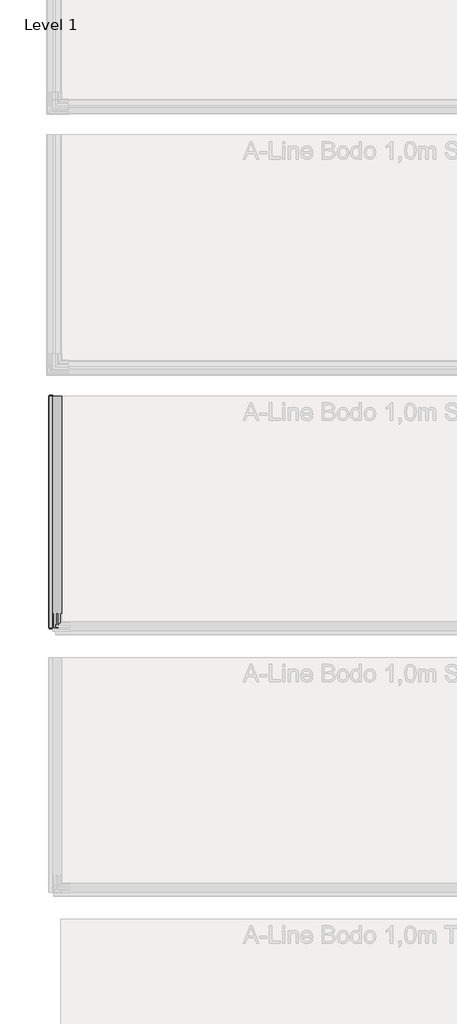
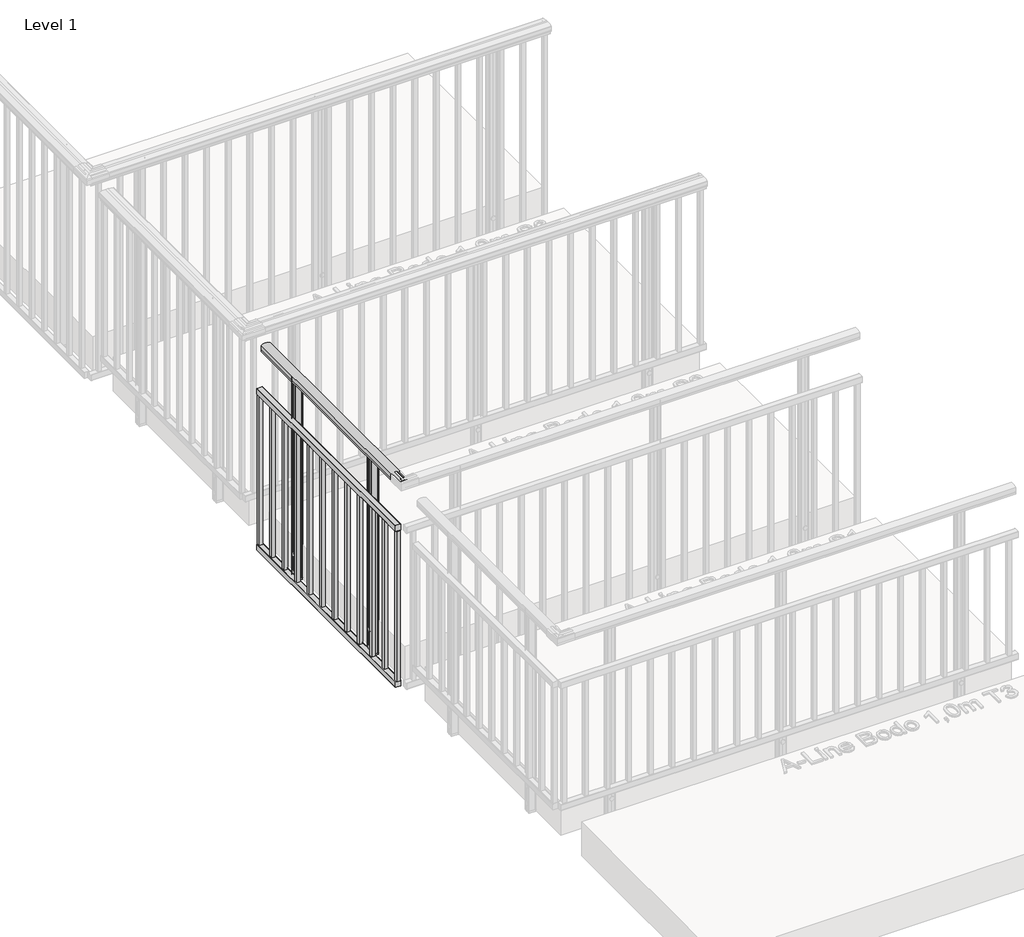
# One storey, part 8 of 66: 1 railing.
"""IFC4 building model written with IfcOpenShell, lengths in millimetres."""

from ifc_helpers import new_model, si_unit, point, frame, frame_2d, origin, place, context, project, spatial, polyline, circle_curve, trimmed, segment, composite_curve, outline, extrude, element, save

model = new_model("IFC4")

# Units and contexts
model_context = context("Model", 3, world=origin())
ifc_project = project(units=[si_unit("LENGTHUNIT", "METRE", prefix="MILLI")], contexts=[model_context])

# Site, building, storey
site = spatial("IfcSite", under=ifc_project)
building = spatial("IfcBuilding", under=site)
storey = spatial("IfcBuildingStorey", under=building, Name="Level 1", Elevation=0.0)

# Railing
placement = place(None, origin())
element("IfcRailing", 1, ObjectType="A-Line Bodo 1,0m S2", at=placement, inside=storey, context=model_context, shape_type="SweptSolid", body=[
    extrude(outline(composite_curve([segment(trimmed(circle_curve(frame_2d((942.6785502, 4483.339356)), 57.3235687), [point((994.1390059, 4508.5943162))], [point((994.1342258, 4458.074658))], False, "CARTESIAN"), True, "CONTINUOUS"), segment(polyline([(994.1342258, 4458.074658), (967.0235023, 4458.074658), (966.4415706, 4458.6565897), (965.8194895, 4458.0345086), (957.2498847, 4458.0345086), (957.2498847, 4459.8394615), (980.4998829, 4459.8394615), (980.4998829, 4506.8345077), (957.2498847, 4506.8345077), (957.2498847, 4508.5943162), (965.9694895, 4508.5943162), (966.5842725, 4507.9795332), (967.1990555, 4508.5943162), (994.1390059, 4508.5943162)]), True, "CONTINUOUS")], self_intersect=False)), frame((0.0, -16099.7113559, 0.0), z_axis=(0.0, 1.0, 0.0), x_axis=(0.0, 0.0, 1.0)), (0.0, 0.0, 1.0), 1330.0),
    extrude(outline(composite_curve([segment(polyline([(749.0, 4434.5047322), (716.8, 4434.5047322)]), True, "CONTINUOUS"), segment(trimmed(circle_curve(frame_2d((716.8, 4435.5047322)), 1.0), [point((716.8, 4434.5047322))], [point((715.8, 4435.5047322))], False, "CARTESIAN"), True, "CONTINUOUS"), segment(polyline([(715.8, 4435.5047322), (715.8, 4462.6047322)]), True, "CONTINUOUS"), segment(trimmed(circle_curve(frame_2d((716.8, 4462.6047322)), 1.0), [point((715.8, 4462.6047322))], [point((716.8, 4463.6047322))], False, "CARTESIAN"), True, "CONTINUOUS"), segment(polyline([(716.8, 4463.6047322), (749.0, 4463.6047322)]), True, "CONTINUOUS"), segment(trimmed(circle_curve(frame_2d((749.0, 4462.6047322)), 1.0), [point((749.0, 4463.6047322))], [point((750.0, 4462.6047322))], False, "CARTESIAN"), True, "CONTINUOUS"), segment(polyline([(750.0, 4462.6047322), (750.0, 4435.5047322)]), True, "CONTINUOUS"), segment(trimmed(circle_curve(frame_2d((749.0, 4435.5047322)), 1.0), [point((750.0, 4435.5047322))], [point((749.0, 4434.5047322))], False, "CARTESIAN"), True, "CONTINUOUS")], self_intersect=False)), frame((0.0, -16099.7113559, 0.0), z_axis=(0.0, 1.0, 0.0), x_axis=(0.0, 0.0, 1.0)), (0.0, 0.0, 1.0), 1330.0),
    extrude(outline(composite_curve([segment(trimmed(circle_curve(frame_2d((-166.8, 4435.5047322)), 1.0), [point((-165.8, 4435.5047322))], [point((-166.8, 4434.5047322))], False, "CARTESIAN"), True, "CONTINUOUS"), segment(polyline([(-166.8, 4434.5047322), (-199.0, 4434.5047322)]), True, "CONTINUOUS"), segment(trimmed(circle_curve(frame_2d((-199.0, 4435.5047322)), 1.0), [point((-199.0, 4434.5047322))], [point((-200.0, 4435.5047322))], False, "CARTESIAN"), True, "CONTINUOUS"), segment(polyline([(-200.0, 4435.5047322), (-200.0, 4462.6047322)]), True, "CONTINUOUS"), segment(trimmed(circle_curve(frame_2d((-199.0, 4462.6047322)), 1.0), [point((-200.0, 4462.6047322))], [point((-199.0, 4463.6047322))], False, "CARTESIAN"), True, "CONTINUOUS"), segment(polyline([(-199.0, 4463.6047322), (-166.8, 4463.6047322)]), True, "CONTINUOUS"), segment(trimmed(circle_curve(frame_2d((-166.8, 4462.6047322)), 1.0), [point((-166.8, 4463.6047322))], [point((-165.8, 4462.6047322))], False, "CARTESIAN"), True, "CONTINUOUS"), segment(polyline([(-165.8, 4462.6047322), (-165.8, 4435.5047322)]), True, "CONTINUOUS")], self_intersect=False)), frame((0.0, -16099.7113559, 0.0), z_axis=(0.0, 1.0, 0.0), x_axis=(0.0, 0.0, 1.0)), (0.0, 0.0, 1.0), 1330.0),
    extrude(outline(polyline([(4439.0547322, -16084.7113559), (4459.0547322, -16084.7113559), (4459.0547322, -16104.7113559), (4439.0547322, -16104.7113559), (4439.0547322, -16084.7113559)]), holes=[polyline([(4441.0547322, -16086.7113559), (4441.0547322, -16102.7113559), (4457.0547322, -16102.7113559), (4457.0547322, -16086.7113559), (4441.0547322, -16086.7113559)])]), frame((0.0, 0.0, -166.0), z_axis=(0.0, 0.0, 1.0), x_axis=(1.0, 0.0, 0.0)), (0.0, 0.0, 1.0), 882.0),
    extrude(outline(polyline([(4439.0547322, -15964.7113559), (4459.0547322, -15964.7113559), (4459.0547322, -15984.7113559), (4439.0547322, -15984.7113559), (4439.0547322, -15964.7113559)]), holes=[polyline([(4441.0547322, -15966.7113559), (4441.0547322, -15982.7113559), (4457.0547322, -15982.7113559), (4457.0547322, -15966.7113559), (4441.0547322, -15966.7113559)])]), frame((0.0, 0.0, -166.0), z_axis=(0.0, 0.0, 1.0), x_axis=(1.0, 0.0, 0.0)), (0.0, 0.0, 1.0), 882.0),
    extrude(outline(polyline([(4439.0547322, -15844.7113559), (4459.0547322, -15844.7113559), (4459.0547322, -15864.7113559), (4439.0547322, -15864.7113559), (4439.0547322, -15844.7113559)]), holes=[polyline([(4441.0547322, -15846.7113559), (4441.0547322, -15862.7113559), (4457.0547322, -15862.7113559), (4457.0547322, -15846.7113559), (4441.0547322, -15846.7113559)])]), frame((0.0, 0.0, -166.0), z_axis=(0.0, 0.0, 1.0), x_axis=(1.0, 0.0, 0.0)), (0.0, 0.0, 1.0), 882.0),
    extrude(outline(polyline([(4439.0547322, -15724.7113559), (4459.0547322, -15724.7113559), (4459.0547322, -15744.7113559), (4439.0547322, -15744.7113559), (4439.0547322, -15724.7113559)]), holes=[polyline([(4441.0547322, -15726.7113559), (4441.0547322, -15742.7113559), (4457.0547322, -15742.7113559), (4457.0547322, -15726.7113559), (4441.0547322, -15726.7113559)])]), frame((0.0, 0.0, -166.0), z_axis=(0.0, 0.0, 1.0), x_axis=(1.0, 0.0, 0.0)), (0.0, 0.0, 1.0), 882.0),
    extrude(outline(polyline([(4439.0547322, -15604.7113559), (4459.0547322, -15604.7113559), (4459.0547322, -15624.7113559), (4439.0547322, -15624.7113559), (4439.0547322, -15604.7113559)]), holes=[polyline([(4441.0547322, -15606.7113559), (4441.0547322, -15622.7113559), (4457.0547322, -15622.7113559), (4457.0547322, -15606.7113559), (4441.0547322, -15606.7113559)])]), frame((0.0, 0.0, -166.0), z_axis=(0.0, 0.0, 1.0), x_axis=(1.0, 0.0, 0.0)), (0.0, 0.0, 1.0), 882.0),
    extrude(outline(polyline([(4439.0547322, -15484.7113559), (4459.0547322, -15484.7113559), (4459.0547322, -15504.7113559), (4439.0547322, -15504.7113559), (4439.0547322, -15484.7113559)]), holes=[polyline([(4441.0547322, -15486.7113559), (4441.0547322, -15502.7113559), (4457.0547322, -15502.7113559), (4457.0547322, -15486.7113559), (4441.0547322, -15486.7113559)])]), frame((0.0, 0.0, -166.0), z_axis=(0.0, 0.0, 1.0), x_axis=(1.0, 0.0, 0.0)), (0.0, 0.0, 1.0), 882.0),
    extrude(outline(polyline([(4439.0547322, -15364.7113559), (4459.0547322, -15364.7113559), (4459.0547322, -15384.7113559), (4439.0547322, -15384.7113559), (4439.0547322, -15364.7113559)]), holes=[polyline([(4441.0547322, -15366.7113559), (4441.0547322, -15382.7113559), (4457.0547322, -15382.7113559), (4457.0547322, -15366.7113559), (4441.0547322, -15366.7113559)])]), frame((0.0, 0.0, -166.0), z_axis=(0.0, 0.0, 1.0), x_axis=(1.0, 0.0, 0.0)), (0.0, 0.0, 1.0), 882.0),
    extrude(outline(polyline([(4439.0547322, -15244.7113559), (4459.0547322, -15244.7113559), (4459.0547322, -15264.7113559), (4439.0547322, -15264.7113559), (4439.0547322, -15244.7113559)]), holes=[polyline([(4441.0547322, -15246.7113559), (4441.0547322, -15262.7113559), (4457.0547322, -15262.7113559), (4457.0547322, -15246.7113559), (4441.0547322, -15246.7113559)])]), frame((0.0, 0.0, -166.0), z_axis=(0.0, 0.0, 1.0), x_axis=(1.0, 0.0, 0.0)), (0.0, 0.0, 1.0), 882.0),
    extrude(outline(polyline([(4439.0547322, -15124.7113559), (4459.0547322, -15124.7113559), (4459.0547322, -15144.7113559), (4439.0547322, -15144.7113559), (4439.0547322, -15124.7113559)]), holes=[polyline([(4441.0547322, -15126.7113559), (4441.0547322, -15142.7113559), (4457.0547322, -15142.7113559), (4457.0547322, -15126.7113559), (4441.0547322, -15126.7113559)])]), frame((0.0, 0.0, -166.0), z_axis=(0.0, 0.0, 1.0), x_axis=(1.0, 0.0, 0.0)), (0.0, 0.0, 1.0), 882.0),
    extrude(outline(polyline([(4439.0547322, -15004.7113559), (4459.0547322, -15004.7113559), (4459.0547322, -15024.7113559), (4439.0547322, -15024.7113559), (4439.0547322, -15004.7113559)]), holes=[polyline([(4441.0547322, -15006.7113559), (4441.0547322, -15022.7113559), (4457.0547322, -15022.7113559), (4457.0547322, -15006.7113559), (4441.0547322, -15006.7113559)])]), frame((0.0, 0.0, -166.0), z_axis=(0.0, 0.0, 1.0), x_axis=(1.0, 0.0, 0.0)), (0.0, 0.0, 1.0), 882.0),
    extrude(outline(polyline([(4439.0547322, -14884.7113559), (4459.0547322, -14884.7113559), (4459.0547322, -14904.7113559), (4439.0547322, -14904.7113559), (4439.0547322, -14884.7113559)]), holes=[polyline([(4441.0547322, -14886.7113559), (4441.0547322, -14902.7113559), (4457.0547322, -14902.7113559), (4457.0547322, -14886.7113559), (4441.0547322, -14886.7113559)])]), frame((0.0, 0.0, -166.0), z_axis=(0.0, 0.0, 1.0), x_axis=(1.0, 0.0, 0.0)), (0.0, 0.0, 1.0), 882.0),
    extrude(outline(polyline([(4439.0547322, -14764.7113559), (4459.0547322, -14764.7113559), (4459.0547322, -14784.7113559), (4439.0547322, -14784.7113559), (4439.0547322, -14764.7113559)]), holes=[polyline([(4441.0547322, -14766.7113559), (4441.0547322, -14782.7113559), (4457.0547322, -14782.7113559), (4457.0547322, -14766.7113559), (4441.0547322, -14766.7113559)])]), frame((0.0, 0.0, -166.0), z_axis=(0.0, 0.0, 1.0), x_axis=(1.0, 0.0, 0.0)), (0.0, 0.0, 1.0), 882.0),
    extrude(outline(composite_curve([segment(polyline([(4504.0547322, -15800.5141429), (4504.0547322, -15817.5374429)]), True, "CONTINUOUS"), segment(trimmed(circle_curve(frame_2d((4501.8808192, -15817.5374429)), 2.173913), [point((4504.0547322, -15817.5374429))], [point((4501.8808192, -15819.7113559))], False, "CARTESIAN"), True, "CONTINUOUS"), segment(polyline([(4501.8808192, -15819.7113559), (4466.2286453, -15819.7113559)]), True, "CONTINUOUS"), segment(trimmed(circle_curve(frame_2d((4466.2286453, -15817.5374429)), 2.173913), [point((4466.2286453, -15819.7113559))], [point((4464.0547322, -15817.5374429))], False, "CARTESIAN"), True, "CONTINUOUS"), segment(polyline([(4464.0547322, -15817.5374429), (4464.0896821, -15800.479193), (4464.8575193, -15799.7113559), (4464.0896821, -15798.9435188), (4464.0547322, -15781.885269)]), True, "CONTINUOUS"), segment(trimmed(circle_curve(frame_2d((4466.2286453, -15781.885269)), 2.173913), [point((4464.0547322, -15781.885269))], [point((4466.2286453, -15779.7113559))], False, "CARTESIAN"), True, "CONTINUOUS"), segment(polyline([(4466.2286453, -15779.7113559), (4501.8808192, -15779.7113559)]), True, "CONTINUOUS"), segment(trimmed(circle_curve(frame_2d((4501.8808192, -15781.885269)), 2.173913), [point((4501.8808192, -15779.7113559))], [point((4504.0547322, -15781.8852689))], False, "CARTESIAN"), True, "CONTINUOUS"), segment(polyline([(4504.0547322, -15781.8852689), (4504.0197823, -15798.9435188), (4503.2519452, -15799.7113559), (4504.0547322, -15800.5141429)]), True, "CONTINUOUS")], self_intersect=False)), frame((0.0, 0.0, -200.0), z_axis=(0.0, 0.0, 1.0), x_axis=(1.0, 0.0, 0.0)), (0.0, 0.0, 1.0), 10.0),
    extrude(outline(composite_curve([segment(trimmed(circle_curve(frame_2d((4501.8808192, -15781.885269)), 2.173913), [point((4501.8808192, -15779.7113559))], [point((4504.0547322, -15781.885269))], False, "CARTESIAN"), True, "CONTINUOUS"), segment(polyline([(4504.0547322, -15781.885269), (4504.0197823, -15798.9435188), (4503.6517779, -15799.8417907), (4504.0547322, -15800.6096278), (4504.0547322, -15817.5374429)]), True, "CONTINUOUS"), segment(trimmed(circle_curve(frame_2d((4501.8808192, -15817.5374429)), 2.173913), [point((4504.0547322, -15817.5374429))], [point((4501.8808192, -15819.7113559))], False, "CARTESIAN"), True, "CONTINUOUS"), segment(polyline([(4501.8808192, -15819.7113559), (4466.2286453, -15819.7113559)]), True, "CONTINUOUS"), segment(trimmed(circle_curve(frame_2d((4466.2286453, -15817.5374429)), 2.173913), [point((4466.2286453, -15819.7113559))], [point((4464.0547322, -15817.5374429))], False, "CARTESIAN"), True, "CONTINUOUS"), segment(polyline([(4464.0547322, -15817.5374429), (4464.0896821, -15800.479193), (4464.8575193, -15799.7113559), (4464.0896821, -15798.9435188), (4464.0547322, -15781.885269)]), True, "CONTINUOUS"), segment(trimmed(circle_curve(frame_2d((4466.2286453, -15781.885269)), 2.173913), [point((4464.0547322, -15781.885269))], [point((4466.2286453, -15779.7113559))], False, "CARTESIAN"), True, "CONTINUOUS"), segment(polyline([(4466.2286453, -15779.7113559), (4501.8808192, -15779.7113559)]), True, "CONTINUOUS")], self_intersect=False), holes=[composite_curve([segment(polyline([(4499.7069062, -15783.1896168), (4468.4025583, -15783.1896168)]), True, "CONTINUOUS"), segment(trimmed(circle_curve(frame_2d((4468.4025583, -15784.059182)), 0.8695652), [point((4468.4025583, -15783.1896168))], [point((4467.5329931, -15784.059182))], True, "CARTESIAN"), True, "CONTINUOUS"), segment(polyline([(4467.5329931, -15784.059182), (4467.5329931, -15815.3635298)]), True, "CONTINUOUS"), segment(trimmed(circle_curve(frame_2d((4468.4025583, -15815.3635298)), 0.8695652), [point((4467.5329931, -15815.3635298))], [point((4468.4025583, -15816.233095))], True, "CARTESIAN"), True, "CONTINUOUS"), segment(polyline([(4468.4025583, -15816.233095), (4499.7069062, -15816.233095)]), True, "CONTINUOUS"), segment(trimmed(circle_curve(frame_2d((4499.7069062, -15815.3635298)), 0.8695652), [point((4499.7069062, -15816.233095))], [point((4500.5764714, -15815.3635298))], True, "CARTESIAN"), True, "CONTINUOUS"), segment(polyline([(4500.5764714, -15815.3635298), (4500.5764714, -15784.059182)]), True, "CONTINUOUS"), segment(trimmed(circle_curve(frame_2d((4499.7069062, -15784.059182)), 0.8695652), [point((4500.5764714, -15784.059182))], [point((4499.7069062, -15783.1896168))], True, "CARTESIAN"), True, "CONTINUOUS")], self_intersect=False)]), frame((0.0, 0.0, -190.0), z_axis=(0.0, 0.0, 1.0), x_axis=(1.0, 0.0, 0.0)), (0.0, 0.0, 1.0), 1171.0),
    extrude(outline(composite_curve([segment(trimmed(circle_curve(frame_2d((0.0, 12.0000001)), 12.0), [point((0.0, 24.0))], [point((0.0, 0.0))], False, "CARTESIAN"), True, "CONTINUOUS"), segment(trimmed(circle_curve(frame_2d((0.0, 12.0000001)), 12.0), [point((0.0, 0.0))], [point((0.0, 24.0))], False, "CARTESIAN"), True, "CONTINUOUS")], self_intersect=False)), frame((4464.0666505, -15787.7023183, -151.0), z_axis=(-0.9999999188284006, 0.00040291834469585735, 0.0), x_axis=(0.0, 0.0, -1.0)), (0.0, 0.0, 1.0), 3.0757477),
    extrude(outline(composite_curve([segment(trimmed(circle_curve(frame_2d((0.0, 12.0000001)), 12.0), [point((0.0, 24.0))], [point((0.0, 0.0))], False, "CARTESIAN"), True, "CONTINUOUS"), segment(trimmed(circle_curve(frame_2d((0.0, 12.0000001)), 12.0), [point((0.0, 0.0))], [point((0.0, 24.0))], False, "CARTESIAN"), True, "CONTINUOUS")], self_intersect=False)), frame((4464.0666505, -15787.7023183, -50.0), z_axis=(-0.9999999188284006, 0.00040291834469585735, 0.0), x_axis=(0.0, 0.0, -1.0)), (0.0, 0.0, 1.0), 3.0757477),
    extrude(outline(composite_curve([segment(polyline([(4504.0547322, -15070.5141429), (4504.0547322, -15087.5374429)]), True, "CONTINUOUS"), segment(trimmed(circle_curve(frame_2d((4501.8808192, -15087.5374429)), 2.173913), [point((4504.0547322, -15087.5374429))], [point((4501.8808192, -15089.7113559))], False, "CARTESIAN"), True, "CONTINUOUS"), segment(polyline([(4501.8808192, -15089.7113559), (4466.2286453, -15089.7113559)]), True, "CONTINUOUS"), segment(trimmed(circle_curve(frame_2d((4466.2286453, -15087.5374429)), 2.173913), [point((4466.2286453, -15089.7113559))], [point((4464.0547322, -15087.5374429))], False, "CARTESIAN"), True, "CONTINUOUS"), segment(polyline([(4464.0547322, -15087.5374429), (4464.0896821, -15070.479193), (4464.8575193, -15069.7113559), (4464.0896821, -15068.9435188), (4464.0547322, -15051.885269)]), True, "CONTINUOUS"), segment(trimmed(circle_curve(frame_2d((4466.2286453, -15051.885269)), 2.173913), [point((4464.0547322, -15051.885269))], [point((4466.2286453, -15049.7113559))], False, "CARTESIAN"), True, "CONTINUOUS"), segment(polyline([(4466.2286453, -15049.7113559), (4501.8808192, -15049.7113559)]), True, "CONTINUOUS"), segment(trimmed(circle_curve(frame_2d((4501.8808192, -15051.885269)), 2.173913), [point((4501.8808192, -15049.7113559))], [point((4504.0547322, -15051.8852689))], False, "CARTESIAN"), True, "CONTINUOUS"), segment(polyline([(4504.0547322, -15051.8852689), (4504.0197823, -15068.9435188), (4503.2519452, -15069.7113559), (4504.0547322, -15070.5141429)]), True, "CONTINUOUS")], self_intersect=False)), frame((0.0, 0.0, -200.0), z_axis=(0.0, 0.0, 1.0), x_axis=(1.0, 0.0, 0.0)), (0.0, 0.0, 1.0), 10.0),
    extrude(outline(composite_curve([segment(trimmed(circle_curve(frame_2d((4501.8808192, -15051.885269)), 2.173913), [point((4501.8808192, -15049.7113559))], [point((4504.0547322, -15051.885269))], False, "CARTESIAN"), True, "CONTINUOUS"), segment(polyline([(4504.0547322, -15051.885269), (4504.0197823, -15068.9435188), (4503.6517779, -15069.8417907), (4504.0547322, -15070.6096278), (4504.0547322, -15087.5374429)]), True, "CONTINUOUS"), segment(trimmed(circle_curve(frame_2d((4501.8808192, -15087.5374429)), 2.173913), [point((4504.0547322, -15087.5374429))], [point((4501.8808192, -15089.7113559))], False, "CARTESIAN"), True, "CONTINUOUS"), segment(polyline([(4501.8808192, -15089.7113559), (4466.2286453, -15089.7113559)]), True, "CONTINUOUS"), segment(trimmed(circle_curve(frame_2d((4466.2286453, -15087.5374429)), 2.173913), [point((4466.2286453, -15089.7113559))], [point((4464.0547322, -15087.5374429))], False, "CARTESIAN"), True, "CONTINUOUS"), segment(polyline([(4464.0547322, -15087.5374429), (4464.0896821, -15070.479193), (4464.8575193, -15069.7113559), (4464.0896821, -15068.9435188), (4464.0547322, -15051.885269)]), True, "CONTINUOUS"), segment(trimmed(circle_curve(frame_2d((4466.2286453, -15051.885269)), 2.173913), [point((4464.0547322, -15051.885269))], [point((4466.2286453, -15049.7113559))], False, "CARTESIAN"), True, "CONTINUOUS"), segment(polyline([(4466.2286453, -15049.7113559), (4501.8808192, -15049.7113559)]), True, "CONTINUOUS")], self_intersect=False), holes=[composite_curve([segment(polyline([(4499.7069062, -15053.1896168), (4468.4025583, -15053.1896168)]), True, "CONTINUOUS"), segment(trimmed(circle_curve(frame_2d((4468.4025583, -15054.059182)), 0.8695652), [point((4468.4025583, -15053.1896168))], [point((4467.5329931, -15054.059182))], True, "CARTESIAN"), True, "CONTINUOUS"), segment(polyline([(4467.5329931, -15054.059182), (4467.5329931, -15085.3635298)]), True, "CONTINUOUS"), segment(trimmed(circle_curve(frame_2d((4468.4025583, -15085.3635298)), 0.8695652), [point((4467.5329931, -15085.3635298))], [point((4468.4025583, -15086.233095))], True, "CARTESIAN"), True, "CONTINUOUS"), segment(polyline([(4468.4025583, -15086.233095), (4499.7069062, -15086.233095)]), True, "CONTINUOUS"), segment(trimmed(circle_curve(frame_2d((4499.7069062, -15085.3635298)), 0.8695652), [point((4499.7069062, -15086.233095))], [point((4500.5764714, -15085.3635298))], True, "CARTESIAN"), True, "CONTINUOUS"), segment(polyline([(4500.5764714, -15085.3635298), (4500.5764714, -15054.059182)]), True, "CONTINUOUS"), segment(trimmed(circle_curve(frame_2d((4499.7069062, -15054.059182)), 0.8695652), [point((4500.5764714, -15054.059182))], [point((4499.7069062, -15053.1896168))], True, "CARTESIAN"), True, "CONTINUOUS")], self_intersect=False)]), frame((0.0, 0.0, -190.0), z_axis=(0.0, 0.0, 1.0), x_axis=(1.0, 0.0, 0.0)), (0.0, 0.0, 1.0), 1171.0),
    extrude(outline(composite_curve([segment(trimmed(circle_curve(frame_2d((0.0, 12.0000001)), 12.0), [point((0.0, 24.0))], [point((0.0, 0.0))], False, "CARTESIAN"), True, "CONTINUOUS"), segment(trimmed(circle_curve(frame_2d((0.0, 12.0000001)), 12.0), [point((0.0, 0.0))], [point((0.0, 24.0))], False, "CARTESIAN"), True, "CONTINUOUS")], self_intersect=False)), frame((4464.0666505, -15057.7023183, -151.0), z_axis=(-0.9999999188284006, 0.00040291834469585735, 0.0), x_axis=(0.0, 0.0, -1.0)), (0.0, 0.0, 1.0), 3.0757477),
    extrude(outline(composite_curve([segment(trimmed(circle_curve(frame_2d((0.0, 12.0000001)), 12.0), [point((0.0, 24.0))], [point((0.0, 0.0))], False, "CARTESIAN"), True, "CONTINUOUS"), segment(trimmed(circle_curve(frame_2d((0.0, 12.0000001)), 12.0), [point((0.0, 0.0))], [point((0.0, 24.0))], False, "CARTESIAN"), True, "CONTINUOUS")], self_intersect=False)), frame((4464.0666505, -15057.7023183, -50.0), z_axis=(-0.9999999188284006, 0.00040291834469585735, 0.0), x_axis=(0.0, 0.0, -1.0)), (0.0, 0.0, 1.0), 3.0757477),
])

save(model, "model.ifc")
